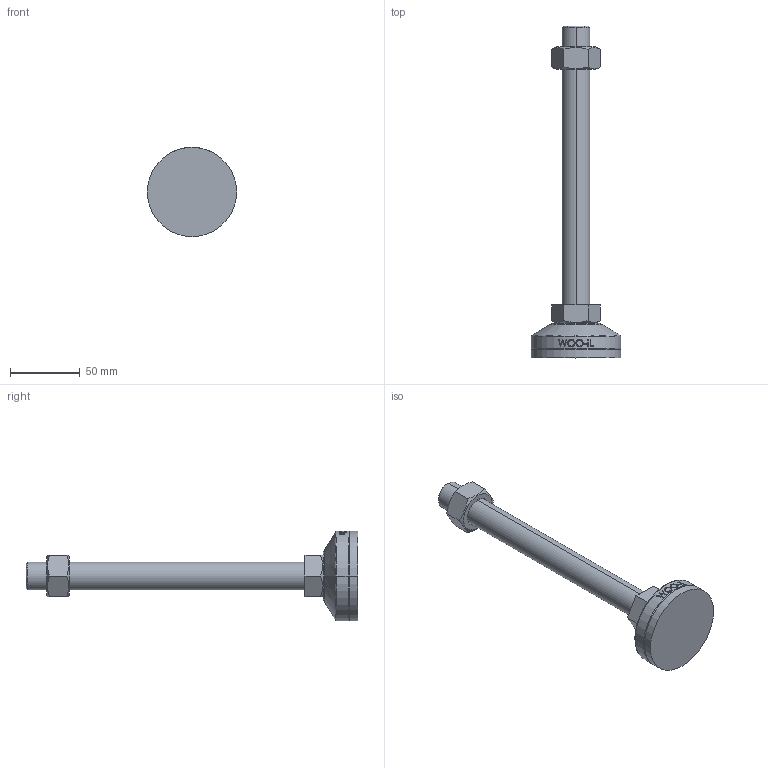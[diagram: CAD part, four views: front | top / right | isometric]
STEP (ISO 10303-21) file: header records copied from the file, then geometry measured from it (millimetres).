
FILE_DESCRIPTION (( 'STEP AP214' ), '1' );
FILE_NAME ('MFR64-M20-200.step', '2021-01-13T05:38:48', ( '' ), ( '' ), 'SwSTEP 2.0', 'SolidWorks 2019', '' );
FILE_SCHEMA (( 'AUTOMOTIVE_DESIGN' ));
Length unit declared in the file: millimetre
Products named in the file (2): MFR64-M20-200
Bounding box: 64 x 238 x 64 mm (x, y, z)
Volume: 148931.4 mm3; surface area: 29218.1 mm2
Topology: 3 solids, 3 shells, 102 faces, 239 edges, 154 vertices
Faces by surface type: plane 48, cylinder 18, bspline 16, cone 14, torus 6
Entity records: 4418 total; most frequent: CARTESIAN_POINT 2143, ORIENTED_EDGE 478, DIRECTION 415, EDGE_CURVE 239, AXIS2_PLACEMENT_3D 158, VERTEX_POINT 154, EDGE_LOOP 115, FACE_OUTER_BOUND 102
